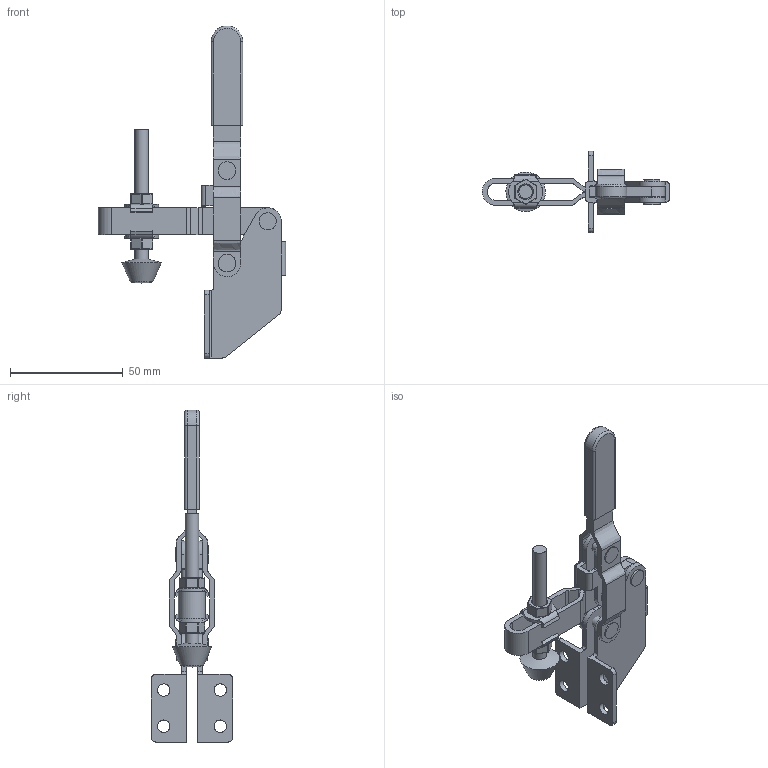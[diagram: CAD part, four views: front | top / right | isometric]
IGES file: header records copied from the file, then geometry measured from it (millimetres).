
Global section: file name: DR_010-11A; native system: Autodesk Inventor 2015; preprocessor: unknown; author: Administrator; date: 20180302.125838; units: millimetre
Bounding box: 82.99 x 36 x 146.99 mm (x, y, z)
Volume: 26727.2 mm3; surface area: 24464.9 mm2
Topology: 9 solids, 9 shells, 328 faces, 837 edges, 535 vertices
Faces by surface type: bspline 328
